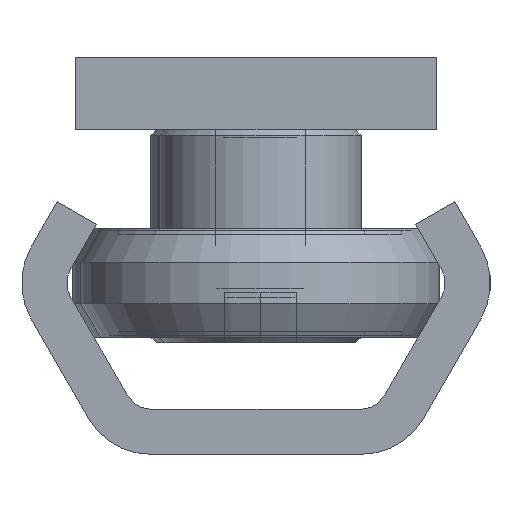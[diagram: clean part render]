
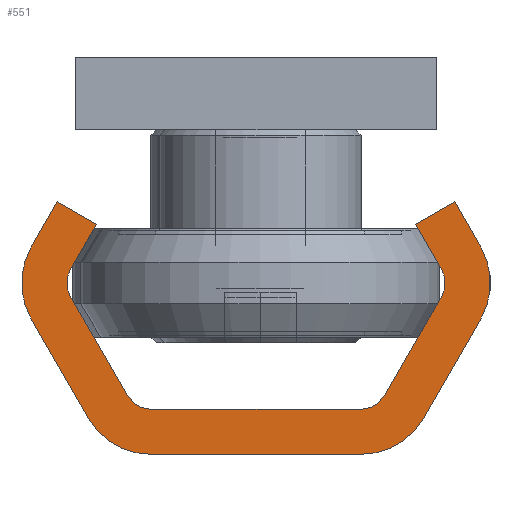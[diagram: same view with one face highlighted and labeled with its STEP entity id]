
A CAD part, left-side view. The second image highlights one B-rep face of the part: STEP entity #551.
In plain terms, the highlighted planar face has unit normal (-1, 0, 0).
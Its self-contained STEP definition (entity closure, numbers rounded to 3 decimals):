
#551 = ADVANCED_FACE( '', ( #1183 ), #1184, .F. );
#1183 = FACE_OUTER_BOUND( '', #2109, .T. );
#1184 = PLANE( '', #2110 );
#2109 = EDGE_LOOP( '', ( #3201, #3202, #3203, #3204, #3205, #3206, #3207, #3208, #3209, #3210, #3211, #3212, #3213, #3214, #3215, #3216, #3217, #3218, #3219, #3220 ) );
#2110 = AXIS2_PLACEMENT_3D( '', #3221, #3222, #3223 );
#3201 = ORIENTED_EDGE( '', *, *, #4117, .F. );
#3202 = ORIENTED_EDGE( '', *, *, #3862, .F. );
#3203 = ORIENTED_EDGE( '', *, *, #4012, .F. );
#3204 = ORIENTED_EDGE( '', *, *, #4125, .F. );
#3205 = ORIENTED_EDGE( '', *, *, #4126, .F. );
#3206 = ORIENTED_EDGE( '', *, *, #4096, .F. );
#3207 = ORIENTED_EDGE( '', *, *, #3875, .F. );
#3208 = ORIENTED_EDGE( '', *, *, #4022, .T. );
#3209 = ORIENTED_EDGE( '', *, *, #4053, .F. );
#3210 = ORIENTED_EDGE( '', *, *, #4069, .T. );
#3211 = ORIENTED_EDGE( '', *, *, #4127, .F. );
#3212 = ORIENTED_EDGE( '', *, *, #3765, .T. );
#3213 = ORIENTED_EDGE( '', *, *, #4076, .F. );
#3214 = ORIENTED_EDGE( '', *, *, #3789, .T. );
#3215 = ORIENTED_EDGE( '', *, *, #4128, .F. );
#3216 = ORIENTED_EDGE( '', *, *, #3784, .F. );
#3217 = ORIENTED_EDGE( '', *, *, #4129, .F. );
#3218 = ORIENTED_EDGE( '', *, *, #3750, .F. );
#3219 = ORIENTED_EDGE( '', *, *, #4130, .F. );
#3220 = ORIENTED_EDGE( '', *, *, #4131, .F. );
#3221 = CARTESIAN_POINT( '', ( 0., -5.825, -4. ) );
#3222 = DIRECTION( '', ( 1., 0., 0. ) );
#3223 = DIRECTION( '', ( 0., 0., -1. ) );
#3750 = EDGE_CURVE( '', #4269, #4270, #4271, .T. );
#3765 = EDGE_CURVE( '', #4293, #4294, #4295, .T. );
#3784 = EDGE_CURVE( '', #4326, #4327, #4328, .T. );
#3789 = EDGE_CURVE( '', #4335, #4336, #4337, .T. );
#3862 = EDGE_CURVE( '', #4453, #4454, #4455, .T. );
#3875 = EDGE_CURVE( '', #4475, #4476, #4477, .T. );
#4012 = EDGE_CURVE( '', #4693, #4453, #4694, .T. );
#4022 = EDGE_CURVE( '', #4475, #4708, #4709, .T. );
#4053 = EDGE_CURVE( '', #4752, #4708, #4753, .T. );
#4069 = EDGE_CURVE( '', #4752, #4774, #4775, .T. );
#4076 = EDGE_CURVE( '', #4335, #4294, #4784, .T. );
#4096 = EDGE_CURVE( '', #4476, #4811, #4812, .T. );
#4117 = EDGE_CURVE( '', #4454, #4847, #4848, .T. );
#4125 = EDGE_CURVE( '', #4859, #4693, #4860, .T. );
#4126 = EDGE_CURVE( '', #4811, #4859, #4861, .T. );
#4127 = EDGE_CURVE( '', #4293, #4774, #4862, .T. );
#4128 = EDGE_CURVE( '', #4327, #4336, #4863, .T. );
#4129 = EDGE_CURVE( '', #4270, #4326, #4864, .T. );
#4130 = EDGE_CURVE( '', #4865, #4269, #4866, .T. );
#4131 = EDGE_CURVE( '', #4847, #4865, #4867, .T. );
#4269 = VERTEX_POINT( '', #5031 );
#4270 = VERTEX_POINT( '', #5032 );
#4271 = CIRCLE( '', #5033, 4. );
#4293 = VERTEX_POINT( '', #5060 );
#4294 = VERTEX_POINT( '', #5061 );
#4295 = CIRCLE( '', #5062, 1.5 );
#4326 = VERTEX_POINT( '', #5098 );
#4327 = VERTEX_POINT( '', #5099 );
#4328 = LINE( '', #5100, #5101 );
#4335 = VERTEX_POINT( '', #5111 );
#4336 = VERTEX_POINT( '', #5112 );
#4337 = CIRCLE( '', #5113, 1.5 );
#4453 = VERTEX_POINT( '', #5250 );
#4454 = VERTEX_POINT( '', #5251 );
#4455 = CIRCLE( '', #5252, 4. );
#4475 = VERTEX_POINT( '', #5274 );
#4476 = VERTEX_POINT( '', #5275 );
#4477 = LINE( '', #5276, #5277 );
#4693 = VERTEX_POINT( '', #5534 );
#4694 = LINE( '', #5535, #5536 );
#4708 = VERTEX_POINT( '', #5553 );
#4709 = CIRCLE( '', #5554, 1.5 );
#4752 = VERTEX_POINT( '', #5600 );
#4753 = LINE( '', #5601, #5602 );
#4774 = VERTEX_POINT( '', #5627 );
#4775 = CIRCLE( '', #5628, 1.5 );
#4784 = LINE( '', #5638, #5639 );
#4811 = VERTEX_POINT( '', #5674 );
#4812 = LINE( '', #5675, #5676 );
#4847 = VERTEX_POINT( '', #5712 );
#4848 = LINE( '', #5713, #5714 );
#4859 = VERTEX_POINT( '', #5726 );
#4860 = CIRCLE( '', #5727, 4. );
#4861 = LINE( '', #5728, #5729 );
#4862 = LINE( '', #5730, #5731 );
#4863 = LINE( '', #5732, #5733 );
#4864 = LINE( '', #5734, #5735 );
#4865 = VERTEX_POINT( '', #5736 );
#4866 = LINE( '', #5737, #5738 );
#4867 = CIRCLE( '', #5739, 4. );
#5031 = CARTESIAN_POINT( '', ( 0., -12.464, -7.5 ) );
#5032 = CARTESIAN_POINT( '', ( 0., -12.464, -11.5 ) );
#5033 = AXIS2_PLACEMENT_3D( '', #5910, #5911, #5912 );
#5060 = CARTESIAN_POINT( '', ( 0., -5.825, -2.5 ) );
#5061 = CARTESIAN_POINT( '', ( 0., -7.124, -3.25 ) );
#5062 = AXIS2_PLACEMENT_3D( '', #5933, #5934, #5935 );
#5098 = CARTESIAN_POINT( '', ( 0., -11.021, -14. ) );
#5099 = CARTESIAN_POINT( '', ( 0., -8.856, -12.75 ) );
#5100 = CARTESIAN_POINT( '', ( 0., -11.021, -14. ) );
#5101 = VECTOR( '', #5965, 1000. );
#5111 = CARTESIAN_POINT( '', ( 0., -10.299, -8.75 ) );
#5112 = CARTESIAN_POINT( '', ( 0., -10.299, -10.25 ) );
#5113 = AXIS2_PLACEMENT_3D( '', #5969, #5970, #5971 );
#5250 = CARTESIAN_POINT( '', ( 0., 9.289, -2. ) );
#5251 = CARTESIAN_POINT( '', ( 0., 5.825, 0. ) );
#5252 = AXIS2_PLACEMENT_3D( '', #6083, #6084, #6085 );
#5274 = CARTESIAN_POINT( '', ( 0., 10.299, -10.25 ) );
#5275 = CARTESIAN_POINT( '', ( 0., 8.856, -12.75 ) );
#5276 = CARTESIAN_POINT( '', ( 0., 10.299, -10.25 ) );
#5277 = VECTOR( '', #6106, 1000. );
#5534 = CARTESIAN_POINT( '', ( 0., 12.464, -7.5 ) );
#5535 = CARTESIAN_POINT( '', ( 0., 12.464, -7.5 ) );
#5536 = VECTOR( '', #6322, 1000. );
#5553 = CARTESIAN_POINT( '', ( 0., 10.299, -8.75 ) );
#5554 = AXIS2_PLACEMENT_3D( '', #6335, #6336, #6337 );
#5600 = CARTESIAN_POINT( '', ( 0., 7.124, -3.25 ) );
#5601 = CARTESIAN_POINT( '', ( 0., 7.124, -3.25 ) );
#5602 = VECTOR( '', #6380, 1000. );
#5627 = CARTESIAN_POINT( '', ( 0., 5.825, -2.5 ) );
#5628 = AXIS2_PLACEMENT_3D( '', #6403, #6404, #6405 );
#5638 = CARTESIAN_POINT( '', ( 0., -10.299, -8.75 ) );
#5639 = VECTOR( '', #6413, 1000. );
#5674 = CARTESIAN_POINT( '', ( 0., 11.021, -14. ) );
#5675 = CARTESIAN_POINT( '', ( 0., 8.856, -12.75 ) );
#5676 = VECTOR( '', #6440, 1000. );
#5712 = CARTESIAN_POINT( '', ( 0., -5.825, 0. ) );
#5713 = CARTESIAN_POINT( '', ( 0., 5.825, 0. ) );
#5714 = VECTOR( '', #6484, 1000. );
#5726 = CARTESIAN_POINT( '', ( 0., 12.464, -11.5 ) );
#5727 = AXIS2_PLACEMENT_3D( '', #6495, #6496, #6497 );
#5728 = CARTESIAN_POINT( '', ( 0., 11.021, -14. ) );
#5729 = VECTOR( '', #6498, 1000. );
#5730 = CARTESIAN_POINT( '', ( 0., -5.825, -2.5 ) );
#5731 = VECTOR( '', #6499, 1000. );
#5732 = CARTESIAN_POINT( '', ( 0., -8.856, -12.75 ) );
#5733 = VECTOR( '', #6500, 1000. );
#5734 = CARTESIAN_POINT( '', ( 0., -12.464, -11.5 ) );
#5735 = VECTOR( '', #6501, 1000. );
#5736 = CARTESIAN_POINT( '', ( 0., -9.289, -2. ) );
#5737 = CARTESIAN_POINT( '', ( 0., -9.289, -2. ) );
#5738 = VECTOR( '', #6502, 1000. );
#5739 = AXIS2_PLACEMENT_3D( '', #6503, #6504, #6505 );
#5910 = CARTESIAN_POINT( '', ( 0., -9., -9.5 ) );
#5911 = DIRECTION( '', ( 1., 0., 0. ) );
#5912 = DIRECTION( '', ( 0., 0., -1. ) );
#5933 = CARTESIAN_POINT( '', ( 0., -5.825, -4. ) );
#5934 = DIRECTION( '', ( 1., 0., 0. ) );
#5935 = DIRECTION( '', ( 0., 0., -1. ) );
#5965 = DIRECTION( '', ( 0., 0.866, 0.5 ) );
#5969 = CARTESIAN_POINT( '', ( 0., -9., -9.5 ) );
#5970 = DIRECTION( '', ( 1., 0., 0. ) );
#5971 = DIRECTION( '', ( 0., 0., -1. ) );
#6083 = CARTESIAN_POINT( '', ( 0., 5.825, -4. ) );
#6084 = DIRECTION( '', ( 1., 0., 0. ) );
#6085 = DIRECTION( '', ( 0., 0., -1. ) );
#6106 = DIRECTION( '', ( 0., -0.5, -0.866 ) );
#6322 = DIRECTION( '', ( 0., -0.5, 0.866 ) );
#6335 = CARTESIAN_POINT( '', ( 0., 9., -9.5 ) );
#6336 = DIRECTION( '', ( 1., 0., 0. ) );
#6337 = DIRECTION( '', ( 0., 0., -1. ) );
#6380 = DIRECTION( '', ( 0., 0.5, -0.866 ) );
#6403 = CARTESIAN_POINT( '', ( 0., 5.825, -4. ) );
#6404 = DIRECTION( '', ( 1., 0., 0. ) );
#6405 = DIRECTION( '', ( 0., 0., -1. ) );
#6413 = DIRECTION( '', ( 0., 0.5, 0.866 ) );
#6440 = DIRECTION( '', ( 0., 0.866, -0.5 ) );
#6484 = DIRECTION( '', ( 0., -1., 0. ) );
#6495 = CARTESIAN_POINT( '', ( 0., 9., -9.5 ) );
#6496 = DIRECTION( '', ( 1., 0., 0. ) );
#6497 = DIRECTION( '', ( 0., 0., -1. ) );
#6498 = DIRECTION( '', ( 0., 0.5, 0.866 ) );
#6499 = DIRECTION( '', ( 0., 1., 0. ) );
#6500 = DIRECTION( '', ( 0., -0.5, 0.866 ) );
#6501 = DIRECTION( '', ( 0., 0.5, -0.866 ) );
#6502 = DIRECTION( '', ( 0., -0.5, -0.866 ) );
#6503 = CARTESIAN_POINT( '', ( 0., -5.825, -4. ) );
#6504 = DIRECTION( '', ( 1., 0., 0. ) );
#6505 = DIRECTION( '', ( 0., 0., -1. ) );
